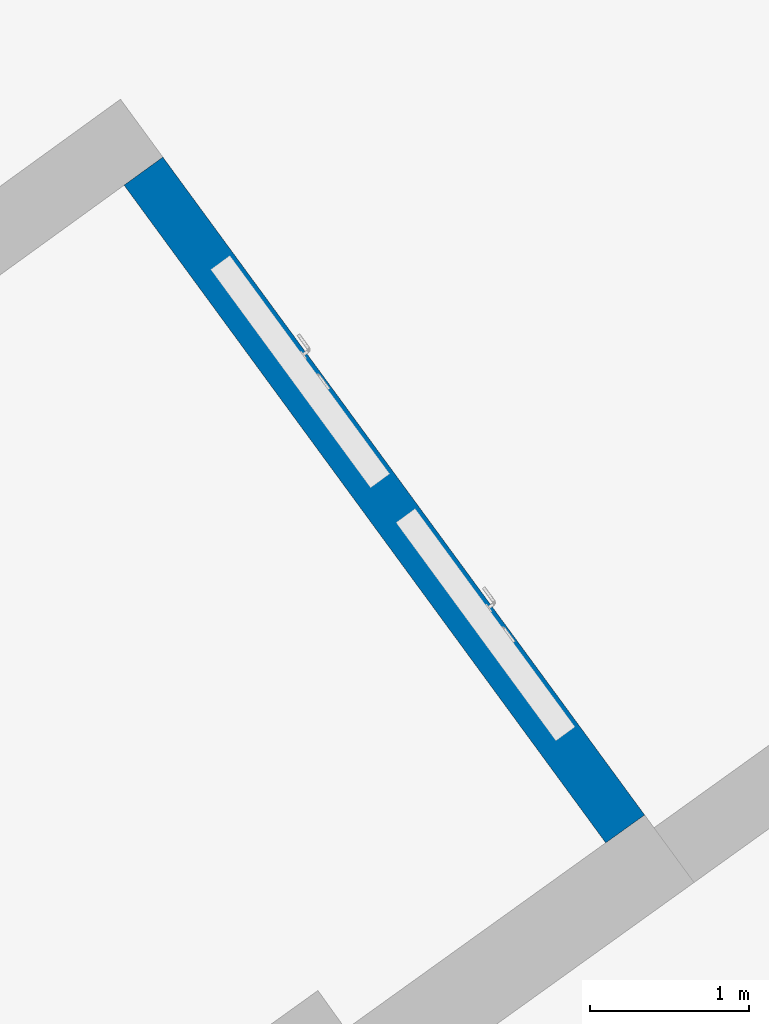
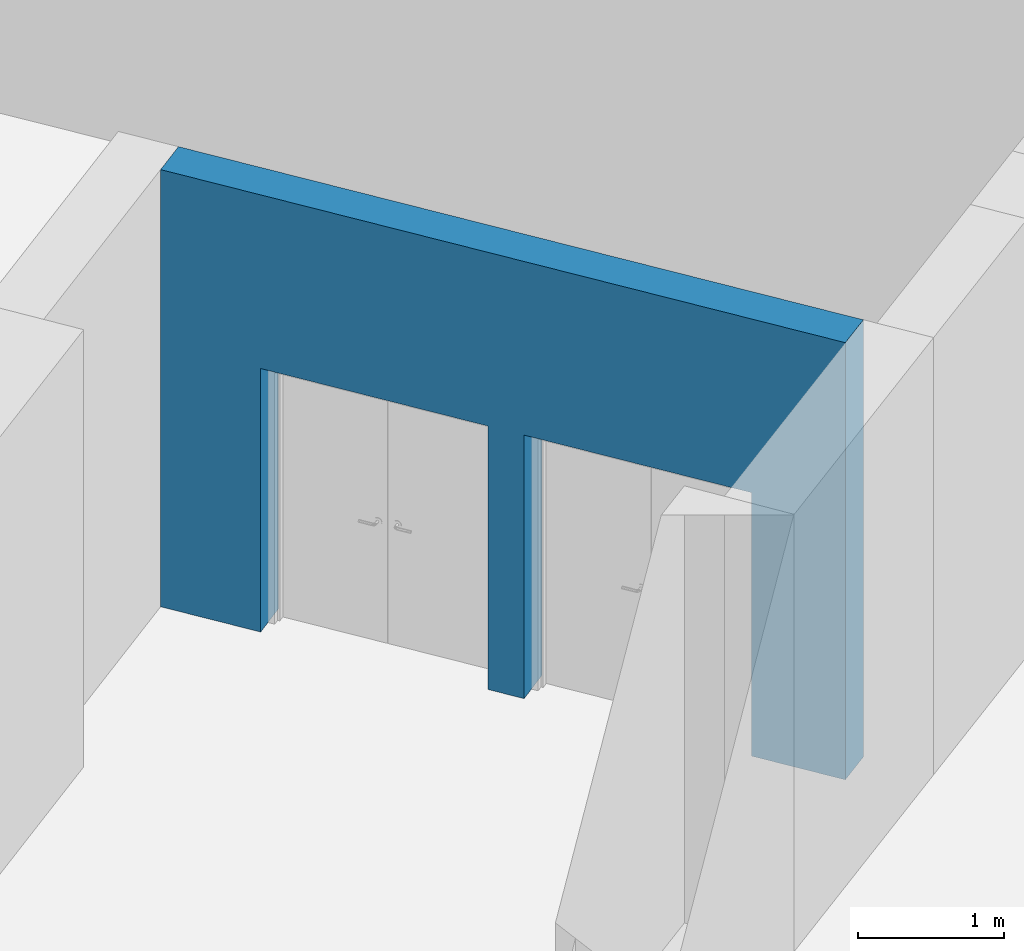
# One storey, part 104 of 157: 1 wall, 2 openings.
"""IFC2X3 building model written with IfcOpenShell, lengths in millimetres."""

from ifc_helpers import new_model, entity, si_unit, converted_unit, derived_unit, direction, frame, frame_2d, origin, place, context, subcontext, project, spatial, polyline, rectangle, outline, extrude, material, layer, layer_set, layer_usage, type_object, element, save


model = new_model("IFC2X3")

# Units and contexts
model_context = context("Model", 3, precision=0.01, world=origin(), true_north=direction((6.123031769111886e-17, 1.0)))
body_context = subcontext(model_context, "Body", "Model", "MODEL_VIEW")
ifc_project = project(units=[si_unit("LENGTHUNIT", "METRE", prefix="MILLI"), si_unit("AREAUNIT", "SQUARE_METRE"), si_unit("VOLUMEUNIT", "CUBIC_METRE"), converted_unit("PLANEANGLEUNIT", "DEGREE", entity("IfcRatioMeasure", 0.017453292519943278), si_unit("PLANEANGLEUNIT", "RADIAN"), dimensions=[0, 0, 0, 0, 0, 0, 0]), si_unit("MASSUNIT", "GRAM", prefix="KILO"), derived_unit("MASSDENSITYUNIT", [(si_unit("MASSUNIT", "GRAM", prefix="KILO"), 1), (si_unit("LENGTHUNIT", "METRE"), -3)]), derived_unit("MOMENTOFINERTIAUNIT", [(si_unit("LENGTHUNIT", "METRE"), 4)]), si_unit("TIMEUNIT", "SECOND"), si_unit("FREQUENCYUNIT", "HERTZ"), si_unit("THERMODYNAMICTEMPERATUREUNIT", "DEGREE_CELSIUS"), derived_unit("THERMALTRANSMITTANCEUNIT", [(si_unit("MASSUNIT", "GRAM", prefix="KILO"), 1), (si_unit("THERMODYNAMICTEMPERATUREUNIT", "KELVIN"), -1), (si_unit("TIMEUNIT", "SECOND"), -3)]), derived_unit("THERMALCONDUCTANCEUNIT", [(si_unit("MASSUNIT", "GRAM", prefix="KILO"), 1), (si_unit("LENGTHUNIT", "METRE"), 1), (si_unit("THERMODYNAMICTEMPERATUREUNIT", "KELVIN"), -1), (si_unit("TIMEUNIT", "SECOND"), -3)]), derived_unit("VOLUMETRICFLOWRATEUNIT", [(si_unit("LENGTHUNIT", "METRE"), 3), (si_unit("TIMEUNIT", "SECOND"), -1)]), derived_unit("MASSFLOWRATEUNIT", [(si_unit("MASSUNIT", "GRAM", prefix="KILO"), 1), (si_unit("TIMEUNIT", "SECOND"), -1)]), derived_unit("ROTATIONALFREQUENCYUNIT", [(si_unit("TIMEUNIT", "SECOND"), -1)]), si_unit("ELECTRICCURRENTUNIT", "AMPERE"), si_unit("ELECTRICVOLTAGEUNIT", "VOLT"), si_unit("POWERUNIT", "WATT"), converted_unit("FORCEUNIT", "KIP", entity("IfcRatioMeasure", 2.088543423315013e-05), si_unit("FORCEUNIT", "NEWTON"), dimensions=[1, 1, -2, 0, 0, 0, 0]), si_unit("ILLUMINANCEUNIT", "LUX"), si_unit("LUMINOUSFLUXUNIT", "LUMEN"), si_unit("LUMINOUSINTENSITYUNIT", "CANDELA"), derived_unit("USERDEFINED", [(si_unit("MASSUNIT", "GRAM", prefix="KILO"), -1), (si_unit("LENGTHUNIT", "METRE"), -2), (si_unit("TIMEUNIT", "SECOND"), 3), (si_unit("LUMINOUSFLUXUNIT", "LUMEN"), 1)]), derived_unit("USERDEFINED", [(si_unit("MASSUNIT", "GRAM", prefix="KILO"), 1), (si_unit("LENGTHUNIT", "METRE"), 3), (si_unit("TIMEUNIT", "SECOND"), -3), (si_unit("ELECTRICCURRENTUNIT", "AMPERE"), -2)]), derived_unit("USERDEFINED", [(si_unit("LENGTHUNIT", "METRE"), 2), (si_unit("TIMEUNIT", "SECOND"), -2)]), derived_unit("SOUNDPOWERUNIT", [(si_unit("MASSUNIT", "GRAM", prefix="KILO"), 1), (si_unit("LENGTHUNIT", "METRE"), 2), (si_unit("TIMEUNIT", "SECOND"), -3)]), derived_unit("SOUNDPRESSUREUNIT", [(si_unit("MASSUNIT", "GRAM", prefix="KILO"), 1), (si_unit("LENGTHUNIT", "METRE"), -1), (si_unit("TIMEUNIT", "SECOND"), -2)]), derived_unit("LINEARVELOCITYUNIT", [(si_unit("LENGTHUNIT", "METRE"), 1), (si_unit("TIMEUNIT", "SECOND"), -1)]), si_unit("PRESSUREUNIT", "PASCAL"), derived_unit("USERDEFINED", [(si_unit("LENGTHUNIT", "METRE"), -2), (si_unit("MASSUNIT", "GRAM", prefix="KILO"), 1), (si_unit("TIMEUNIT", "SECOND"), -2)]), derived_unit("LINEARFORCEUNIT", [(si_unit("MASSUNIT", "GRAM", prefix="KILO"), 1), (si_unit("LENGTHUNIT", "METRE"), 1), (si_unit("TIMEUNIT", "SECOND"), -2), (si_unit("LENGTHUNIT", "METRE"), -1)]), derived_unit("PLANARFORCEUNIT", [(si_unit("MASSUNIT", "GRAM", prefix="KILO"), 1), (si_unit("LENGTHUNIT", "METRE"), 1), (si_unit("TIMEUNIT", "SECOND"), -2), (si_unit("LENGTHUNIT", "METRE"), -2)]), derived_unit("SPECIFICHEATCAPACITYUNIT", [(si_unit("LENGTHUNIT", "METRE"), 2), (si_unit("TIMEUNIT", "SECOND"), -2), (si_unit("THERMODYNAMICTEMPERATUREUNIT", "KELVIN"), -1)]), derived_unit("VAPORPERMEABILITYUNIT", [(si_unit("TIMEUNIT", "SECOND"), 1), (si_unit("LENGTHUNIT", "METRE"), -1)]), derived_unit("DYNAMICVISCOSITYUNIT", [(si_unit("MASSUNIT", "GRAM", prefix="KILO"), 1), (si_unit("LENGTHUNIT", "METRE"), -1), (si_unit("TIMEUNIT", "SECOND"), -1)]), derived_unit("THERMALEXPANSIONCOEFFICIENTUNIT", [(si_unit("THERMODYNAMICTEMPERATUREUNIT", "KELVIN"), -1)])], contexts=[model_context])

# Site, building, storey
site_placement = place(None, frame((0.0, 0.0, 0.0), z_axis=(0.0, 0.0, 1.0), x_axis=(0.8191520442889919, 0.5735764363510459, 0.0)))
site = spatial("IfcSite", under=ifc_project, at=site_placement, Name="Default", CompositionType="ELEMENT")
building_placement = place(site_placement, origin())
building = spatial("IfcBuilding", under=site, at=building_placement, CompositionType="ELEMENT")
storey_placement = place(building_placement, origin())
storey = spatial("IfcBuildingStorey", under=building, at=storey_placement, Name="1.EG +0.00", CompositionType="ELEMENT", Elevation=-4.331468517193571e-12)

# Wall, openings
ifc_material = material(Name="Analytical Wall Surface_CJC")
ifc_layer = layer(ifc_material, 300.0)
ifc_layer_set = layer_set([ifc_layer], Name="Basic Wall:Wand_Aussen_30")
ifc_layer_usage = layer_usage(ifc_layer_set, "AXIS2", "NEGATIVE", 150.0)
wall_type = type_object("IfcWallType", Name="Basic Wall:Wand_Aussen_30", PredefinedType="STANDARD", material=ifc_layer_set)
wall_placement = place(storey_placement, frame((-186762.06177645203, 188118.9901608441, -1150.0), z_axis=(0.0, 0.0, 1.0), x_axis=(-0.021249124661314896, 0.999774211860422, 0.0)))
wall = element("IfcWallStandardCase", 1, at=wall_placement, inside=storey, type_object=wall_type, material=ifc_layer_usage, Name="Basic Wall:Wand_Aussen_30", ObjectType="Basic Wall:Wand_Aussen_30", context=body_context, shape_type="SweptSolid", body=[
    extrude(outline(polyline([(0.0, -150.0), (2352.7808929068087, -150.0), (2722.780949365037, -150.0), (5069.331357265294, -150.0), (5119.332197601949, -150.0), (5121.071518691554, 150.0), (2722.946678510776, 150.0), (2352.9466220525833, 150.0), (2.911303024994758, 150.0), (0.0, -150.0)])), origin(), (0.0, 0.0, 1.0), 3650.000000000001),
])
opening_1_placement = place(wall_placement, frame((2403.882867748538, 150.0, 0.0)))
element("IfcOpeningElement", 2, at=opening_1_placement, cuts=wall, Name="M_Door-Passage-Double-Flush:160x210:1", ObjectType="Opening", context=body_context, shape_type="SweptSolid", body=[
    extrude(rectangle(XDim=2200.0, YDim=1699.9999999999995, at=frame_2d((1100.0, 849.9999999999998), x_axis=(1.0, 0.0))), frame((0.0, 0.0, 0.0), z_axis=(0.0, -1.0, 0.0), x_axis=(0.0, 0.0, 1.0)), (0.0, 0.0, 1.0), 299.9999999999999),
])
opening_2_placement = place(wall_placement, frame((4372.9328677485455, 150.0, 0.0)))
element("IfcOpeningElement", 3, at=opening_2_placement, cuts=wall, Name="M_Door-Passage-Double-Flush:160x210:1", ObjectType="Opening", context=body_context, shape_type="SweptSolid", body=[
    extrude(rectangle(XDim=2200.0, YDim=1699.9999999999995, at=frame_2d((1100.0, 849.9999999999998), x_axis=(1.0, 0.0))), frame((0.0, 0.0, 0.0), z_axis=(0.0, -1.0, 0.0), x_axis=(0.0, 0.0, 1.0)), (0.0, 0.0, 1.0), 299.9999999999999),
])

save(model, "model.ifc")
